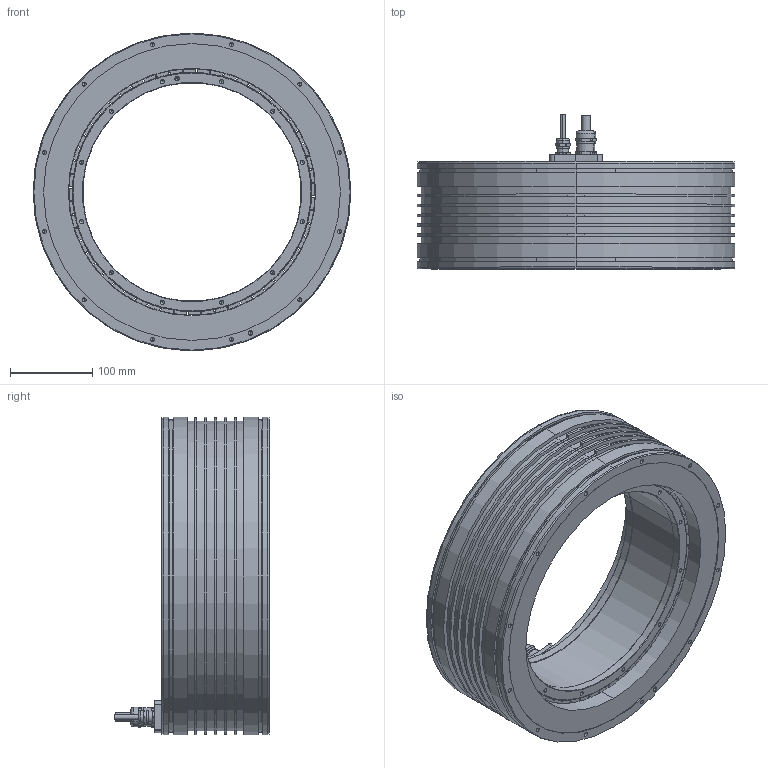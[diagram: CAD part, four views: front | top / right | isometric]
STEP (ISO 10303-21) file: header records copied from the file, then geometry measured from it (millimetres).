
FILE_DESCRIPTION (( 'STEP AP214' ), '1' );
FILE_NAME ('TORQUE KIT QMT HA 385-130-I-AX.STEP', '2025-09-12T09:48:02', ( '' ), ( '' ), 'SwSTEP 2.0', 'SolidWorks 2023', '' );
FILE_SCHEMA (( 'AUTOMOTIVE_DESIGN' ));
Length unit declared in the file: millimetre
Products named in the file (21): Rotor; Housing; Cable; Cooling Ring; Rotor Glued; Resin; Stator; Cable Clamp; Cable Connection; Cable Gland; Screw; Rotor Ring; Magnet; Housing-BO; TORQUE KIT QMT HA 385-130-I-AX
Assembly tree (76 placements, depth 6):
  TORQUE KIT QMT HA 385-130-I-AX
    Stator
      Stator
        Housing
          Housing-BO
            Cooling Ring
        Cable Connection
          Cable Connection
          Cable
          Cable
        Resin
      Cable Clamp
        Cable Clamp
        Cable Gland
        Cable Gland
      Screw  x3
    Rotor
      Rotor Glued
        Rotor Ring
        Magnet  x28
        Magnet  x28
Bounding box: 385 x 187.1 x 385 mm (x, y, z)
Volume: 6796062.8 mm3; surface area: 1161279.9 mm2
Topology: 68 solids, 68 shells, 2865 faces, 6703 edges, 3769 vertices
Faces by surface type: cylinder 1107, plane 615, sphere 560, torus 252, cone 216, bspline 115
Entity records: 47863 total; most frequent: CARTESIAN_POINT 10629, DIRECTION 5579, ORIENTED_EDGE 5462, EDGE_CURVE 2731, AXIS2_PLACEMENT_3D 2097, VERTEX_POINT 1751, VECTOR 1385, LINE 1385
